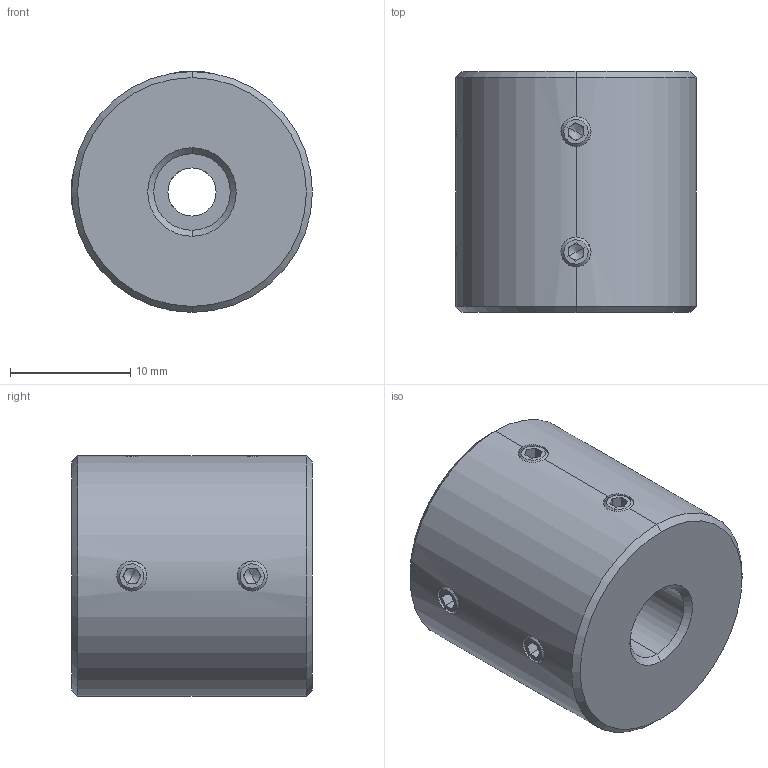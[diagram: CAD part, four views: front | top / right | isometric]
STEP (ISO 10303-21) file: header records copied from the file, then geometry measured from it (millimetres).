
FILE_DESCRIPTION (( 'STEP AP214' ), '1' );
FILE_NAME ('LL-D-D20L20-4-6.35.STEP', '2022-07-23T06:28:11', ( '' ), ( '' ), 'SwSTEP 2.0', 'SolidWorks 2022', '' );
FILE_SCHEMA (( 'AUTOMOTIVE_DESIGN' ));
Length unit declared in the file: millimetre
Products named in the file (1): LL-D-D20L20-4-6.35
Bounding box: 20 x 20 x 20 mm (x, y, z)
Volume: 5740.8 mm3; surface area: 2303 mm2
Topology: 1 solids, 1 shells, 113 faces, 286 edges, 176 vertices
Faces by surface type: plane 59, cone 32, cylinder 22
Entity records: 3636 total; most frequent: CARTESIAN_POINT 886, DIRECTION 582, ORIENTED_EDGE 556, EDGE_CURVE 278, AXIS2_PLACEMENT_3D 214, VERTEX_POINT 176, LINE 154, VECTOR 154
